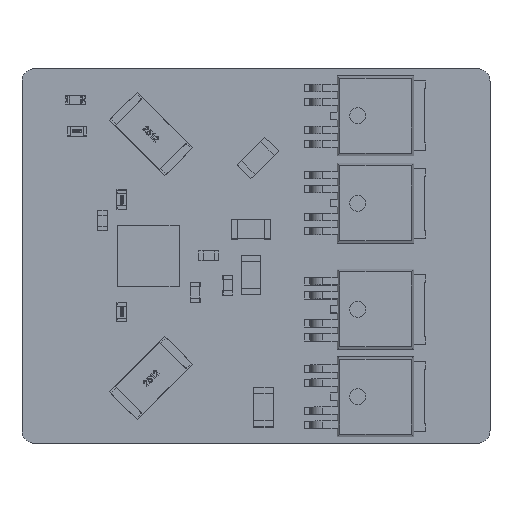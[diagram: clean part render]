
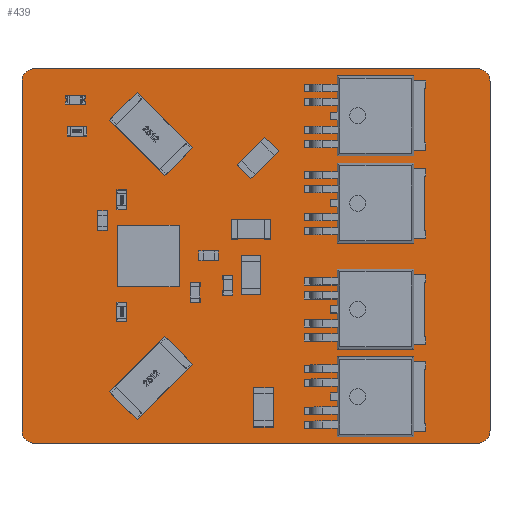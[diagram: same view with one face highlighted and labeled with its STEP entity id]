
A CAD part, top view. The second image highlights one B-rep face of the part: STEP entity #439.
In plain terms, the highlighted planar face has unit normal (0, 0, 1).
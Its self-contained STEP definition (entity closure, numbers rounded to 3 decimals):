
#174 = VERTEX_POINT('',#175);
#175 = CARTESIAN_POINT('',(-36.83,-28.21,0.));
#181 = EDGE_CURVE('',#174,#182,#184,.T.);
#182 = VERTEX_POINT('',#183);
#183 = CARTESIAN_POINT('',(-36.83,0.27,0.));
#184 = LINE('',#185,#186);
#185 = CARTESIAN_POINT('',(-36.83,-28.21,0.));
#186 = VECTOR('',#187,1.);
#187 = DIRECTION('',(0.,1.,0.));
#212 = EDGE_CURVE('',#182,#213,#215,.T.);
#213 = VERTEX_POINT('',#214);
#214 = CARTESIAN_POINT('',(-35.83,1.27,0.));
#215 = CIRCLE('',#216,1.);
#216 = AXIS2_PLACEMENT_3D('',#217,#218,#219);
#217 = CARTESIAN_POINT('',(-35.83,0.27,0.));
#218 = DIRECTION('',(0.,0.,-1.));
#219 = DIRECTION('',(-1.,0.,0.));
#245 = EDGE_CURVE('',#213,#246,#248,.T.);
#246 = VERTEX_POINT('',#247);
#247 = CARTESIAN_POINT('',(0.27,1.27,0.));
#248 = LINE('',#249,#250);
#249 = CARTESIAN_POINT('',(-35.83,1.27,0.));
#250 = VECTOR('',#251,1.);
#251 = DIRECTION('',(1.,0.,0.));
#276 = EDGE_CURVE('',#246,#277,#279,.T.);
#277 = VERTEX_POINT('',#278);
#278 = CARTESIAN_POINT('',(1.27,0.27,0.));
#279 = CIRCLE('',#280,1.);
#280 = AXIS2_PLACEMENT_3D('',#281,#282,#283);
#281 = CARTESIAN_POINT('',(0.27,0.27,0.));
#282 = DIRECTION('',(0.,0.,-1.));
#283 = DIRECTION('',(0.,1.,0.));
#309 = EDGE_CURVE('',#277,#310,#312,.T.);
#310 = VERTEX_POINT('',#311);
#311 = CARTESIAN_POINT('',(1.27,-28.21,0.));
#312 = LINE('',#313,#314);
#313 = CARTESIAN_POINT('',(1.27,0.27,0.));
#314 = VECTOR('',#315,1.);
#315 = DIRECTION('',(0.,-1.,0.));
#340 = EDGE_CURVE('',#310,#341,#343,.T.);
#341 = VERTEX_POINT('',#342);
#342 = CARTESIAN_POINT('',(0.27,-29.21,0.));
#343 = CIRCLE('',#344,1.);
#344 = AXIS2_PLACEMENT_3D('',#345,#346,#347);
#345 = CARTESIAN_POINT('',(0.27,-28.21,0.));
#346 = DIRECTION('',(0.,0.,-1.));
#347 = DIRECTION('',(1.,0.,0.));
#373 = EDGE_CURVE('',#341,#374,#376,.T.);
#374 = VERTEX_POINT('',#375);
#375 = CARTESIAN_POINT('',(-35.83,-29.21,0.));
#376 = LINE('',#377,#378);
#377 = CARTESIAN_POINT('',(0.27,-29.21,0.));
#378 = VECTOR('',#379,1.);
#379 = DIRECTION('',(-1.,0.,0.));
#404 = EDGE_CURVE('',#374,#174,#405,.T.);
#405 = CIRCLE('',#406,1.);
#406 = AXIS2_PLACEMENT_3D('',#407,#408,#409);
#407 = CARTESIAN_POINT('',(-35.83,-28.21,0.));
#408 = DIRECTION('',(0.,0.,-1.));
#409 = DIRECTION('',(0.,-1.,0.));
#439 = ADVANCED_FACE('',(#440),#450,.T.);
#440 = FACE_BOUND('',#441,.F.);
#441 = EDGE_LOOP('',(#442,#443,#444,#445,#446,#447,#448,#449));
#442 = ORIENTED_EDGE('',*,*,#181,.T.);
#443 = ORIENTED_EDGE('',*,*,#212,.T.);
#444 = ORIENTED_EDGE('',*,*,#245,.T.);
#445 = ORIENTED_EDGE('',*,*,#276,.T.);
#446 = ORIENTED_EDGE('',*,*,#309,.T.);
#447 = ORIENTED_EDGE('',*,*,#340,.T.);
#448 = ORIENTED_EDGE('',*,*,#373,.T.);
#449 = ORIENTED_EDGE('',*,*,#404,.T.);
#450 = PLANE('',#451);
#451 = AXIS2_PLACEMENT_3D('',#452,#453,#454);
#452 = CARTESIAN_POINT('',(-36.83,-28.21,0.));
#453 = DIRECTION('',(0.,0.,1.));
#454 = DIRECTION('',(1.,0.,0.));
